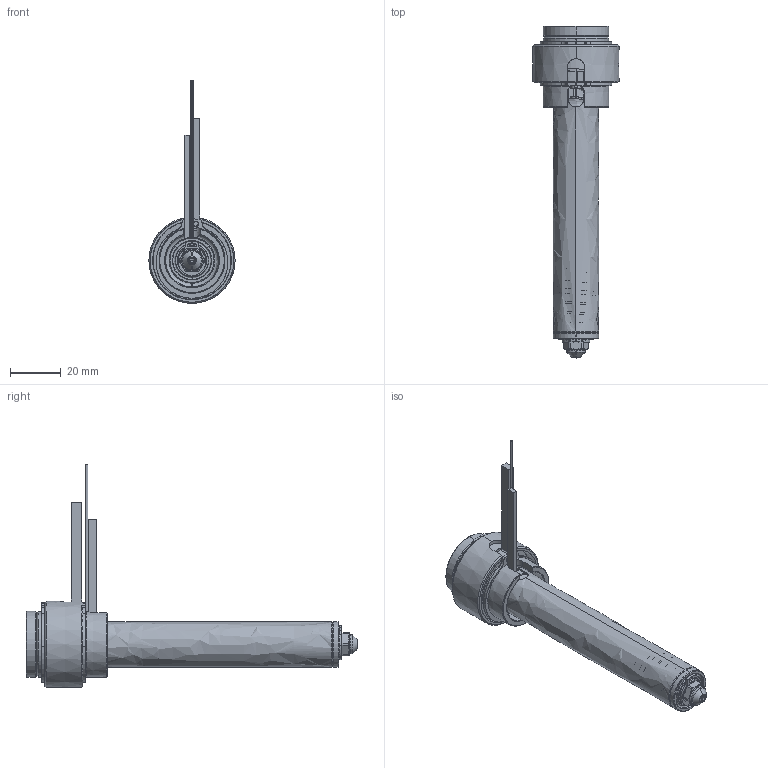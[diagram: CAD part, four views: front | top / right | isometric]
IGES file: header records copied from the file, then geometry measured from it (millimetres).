
Start section: SolidWorks IGES file using analytic representation for surfaces
Global section: file name: C:\Documents and Settings\ws-20\Desktop\TEM\UGER2504-S-A-0 [Øb-1.90 ØC-4.0].IGS; native system: SolidWorks 2012; preprocessor: SolidWorks 2012; author: ws-20; date: 120405.102130; units: millimetre
Bounding box: 34 x 130.9 x 87.9 mm (x, y, z)
Surface area: 22693.8 mm2 (no closed solid volume)
Topology: 0 solids, 0 shells, 196 faces, 2525 edges, 2523 vertices
Faces by surface type: revolution 125, bspline 71
